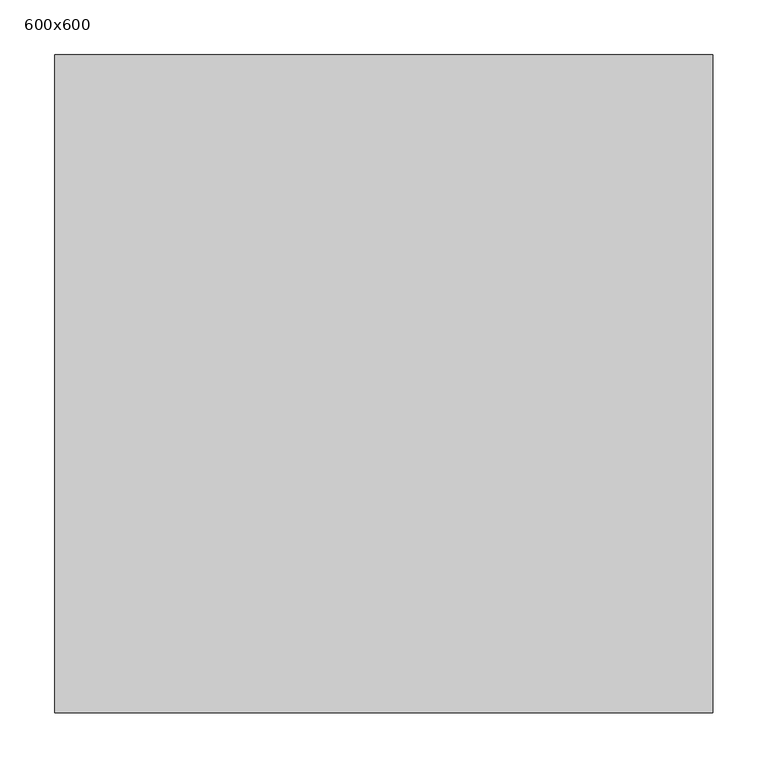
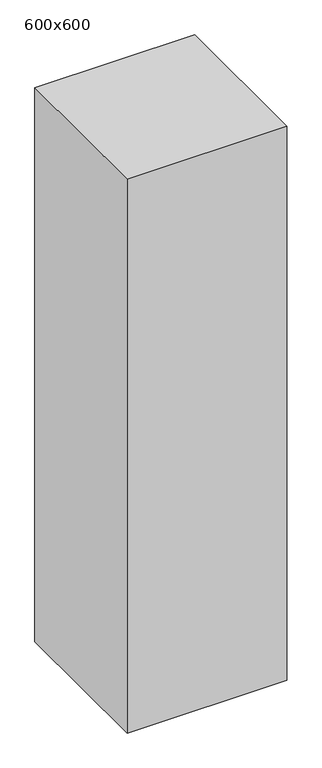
"""IFC4 building model written with IfcOpenShell, lengths in millimetres: column geometry, 混凝土 - 矩形 - 柱 : 600x600."""

from ifc_helpers import new_model, si_unit, frame, origin, place, context, project, spatial, polyline, outline, extrude, source, transform, mapped, element, save


def column_600x600_b5a9a02c(model_context):
    return source(origin(), model_context, "Body", "SweptSolid", [
        extrude(outline(polyline([(300.0, 300.0), (300.0, -300.0), (-300.0, -300.0), (-300.0, 300.0), (300.0, 300.0)])), frame((0.0, 0.0, 18800.0), z_axis=(0.0, 0.0, 1.0), x_axis=(1.0, 0.0, 0.0)), (0.0, 0.0, 1.0), 2200.0),
    ])


if __name__ == "__main__":
    model = new_model("IFC4")
    model_context = context("Model", 3, world=origin())
    ifc_project = project(units=[si_unit("LENGTHUNIT", "METRE", prefix="MILLI")], contexts=[model_context])
    site = spatial("IfcSite", under=ifc_project)
    building = spatial("IfcBuilding", under=site)
    placement = place(None, origin())
    column_600x600_shape = column_600x600_b5a9a02c(model_context)
    element("IfcColumn", 1, ObjectType="混凝土 - 矩形 - 柱 : 600x600", at=placement, inside=building, context=model_context, shape_type="MappedRepresentation", body=[
        mapped(column_600x600_shape, transform((0.0, 0.0, 0.0), x_axis=(1.0, 0.0, 0.0), y_axis=(0.0, 1.0, 0.0), z_axis=(0.0, 0.0, 1.0))),
    ])
    save(model, "model.ifc")
